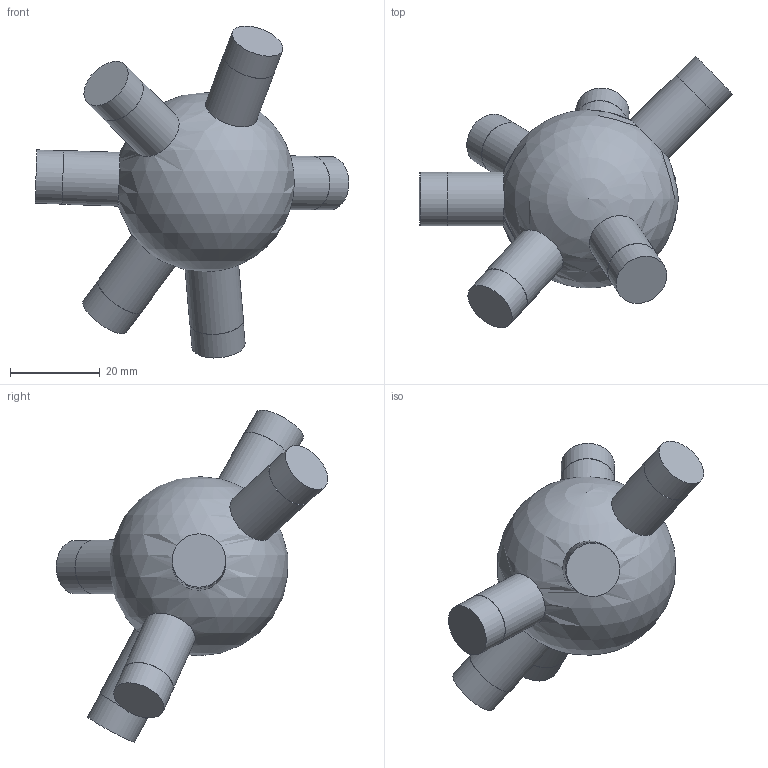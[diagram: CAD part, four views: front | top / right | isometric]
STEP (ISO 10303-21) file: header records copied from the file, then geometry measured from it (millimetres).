
FILE_DESCRIPTION(('Open CASCADE Model'),'2;1');
FILE_NAME('Open CASCADE Shape Model','2026-10-21T12:47:57',('Author'),( 'Open CASCADE'),'Open CASCADE STEP processor 7.9','Open CASCADE 7.9' ,'Unknown');
FILE_SCHEMA(('AUTOMOTIVE_DESIGN { 1 0 10303 214 1 1 1 1 }'));
Length unit declared in the file: millimetre
Products named in the file (1): Open CASCADE STEP translator 7.9 23
Bounding box: 69.99 x 60.56 x 74.05 mm (x, y, z)
Volume: 46813.2 mm3; surface area: 9561.1 mm2
Topology: 1 solids, 1 shells, 25 faces, 39 edges, 26 vertices
Faces by surface type: cylinder 12, plane 12, sphere 1
Full cylindrical faces by diameter (mm): 11.9 x6, 12 x6
Entity records: 1429 total; most frequent: CARTESIAN_POINT 564, DIRECTION 178, ORIENTED_EDGE 72, PCURVE 72, DEFINITIONAL_REPRESENTATION 72, LINE 60, VECTOR 60, AXIS2_PLACEMENT_3D 50
